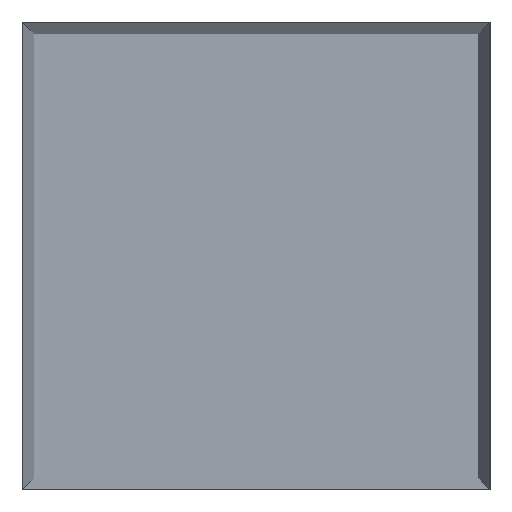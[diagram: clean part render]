
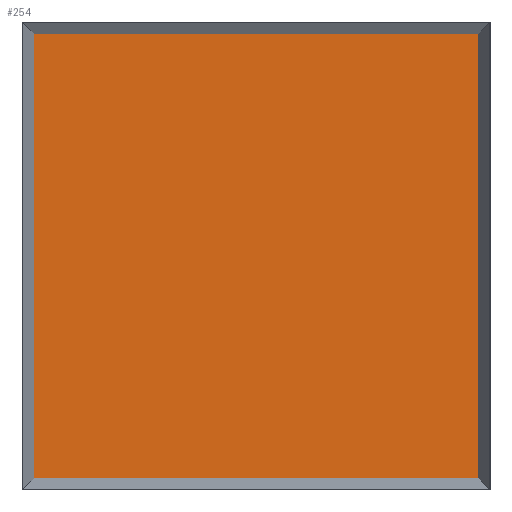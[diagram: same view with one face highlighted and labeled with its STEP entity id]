
A CAD part, front view. The second image highlights one B-rep face of the part: STEP entity #254.
In plain terms, the highlighted planar face has unit normal (0, -1, 0).
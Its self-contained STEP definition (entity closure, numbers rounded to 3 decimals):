
#183=DIRECTION('',(0.707,0.,0.707));
#184=VECTOR('',#183,4.243);
#185=CARTESIAN_POINT('',(11.,17.288,-14.));
#186=LINE('',#185,#184);
#187=DIRECTION('',(1.,0.,0.));
#188=VECTOR('',#187,772.);
#189=CARTESIAN_POINT('',(14.,17.288,-11.));
#190=LINE('',#189,#188);
#191=DIRECTION('',(0.707,0.,-0.707));
#192=VECTOR('',#191,4.243);
#193=CARTESIAN_POINT('',(786.,17.288,-11.));
#194=LINE('',#193,#192);
#195=DIRECTION('',(0.,0.,-1.));
#196=VECTOR('',#195,772.);
#197=CARTESIAN_POINT('',(789.,17.288,-14.));
#198=LINE('',#197,#196);
#199=DIRECTION('',(-0.707,0.,-0.707));
#200=VECTOR('',#199,4.243);
#201=CARTESIAN_POINT('',(789.,17.288,-786.));
#202=LINE('',#201,#200);
#203=DIRECTION('',(-1.,0.,0.));
#204=VECTOR('',#203,772.);
#205=CARTESIAN_POINT('',(786.,17.288,-789.));
#206=LINE('',#205,#204);
#207=DIRECTION('',(-0.707,0.,0.707));
#208=VECTOR('',#207,4.243);
#209=CARTESIAN_POINT('',(14.,17.288,-789.));
#210=LINE('',#209,#208);
#211=DIRECTION('',(0.,0.,1.));
#212=VECTOR('',#211,772.);
#213=CARTESIAN_POINT('',(11.,17.288,-786.));
#214=LINE('',#213,#212);
#215=CARTESIAN_POINT('',(14.,17.288,-11.));
#216=CARTESIAN_POINT('',(11.,17.288,-14.));
#217=VERTEX_POINT('',#215);
#218=VERTEX_POINT('',#216);
#219=CARTESIAN_POINT('',(11.,17.288,-786.));
#220=CARTESIAN_POINT('',(14.,17.288,-789.));
#221=VERTEX_POINT('',#219);
#222=VERTEX_POINT('',#220);
#223=CARTESIAN_POINT('',(789.,17.288,-14.));
#224=CARTESIAN_POINT('',(786.,17.288,-11.));
#225=VERTEX_POINT('',#223);
#226=VERTEX_POINT('',#224);
#227=CARTESIAN_POINT('',(786.,17.288,-789.));
#228=CARTESIAN_POINT('',(789.,17.288,-786.));
#229=VERTEX_POINT('',#227);
#230=VERTEX_POINT('',#228);
#231=CARTESIAN_POINT('',(400.,17.288,-400.));
#232=DIRECTION('',(0.,1.,0.));
#233=DIRECTION('',(1.,0.,0.));
#234=AXIS2_PLACEMENT_3D('',#231,#232,#233);
#235=PLANE('',#234);
#237=ORIENTED_EDGE('',*,*,#236,.T.);
#239=ORIENTED_EDGE('',*,*,#238,.T.);
#241=ORIENTED_EDGE('',*,*,#240,.T.);
#243=ORIENTED_EDGE('',*,*,#242,.T.);
#245=ORIENTED_EDGE('',*,*,#244,.T.);
#247=ORIENTED_EDGE('',*,*,#246,.T.);
#249=ORIENTED_EDGE('',*,*,#248,.T.);
#251=ORIENTED_EDGE('',*,*,#250,.T.);
#252=EDGE_LOOP('',(#237,#239,#241,#243,#245,#247,#249,#251));
#253=FACE_OUTER_BOUND('',#252,.F.);
#236=EDGE_CURVE('',#218,#217,#186,.T.);
#238=EDGE_CURVE('',#217,#226,#190,.T.);
#240=EDGE_CURVE('',#226,#225,#194,.T.);
#242=EDGE_CURVE('',#225,#230,#198,.T.);
#244=EDGE_CURVE('',#230,#229,#202,.T.);
#246=EDGE_CURVE('',#229,#222,#206,.T.);
#248=EDGE_CURVE('',#222,#221,#210,.T.);
#250=EDGE_CURVE('',#221,#218,#214,.T.);
#254=ADVANCED_FACE('',(#253),#235,.F.);
